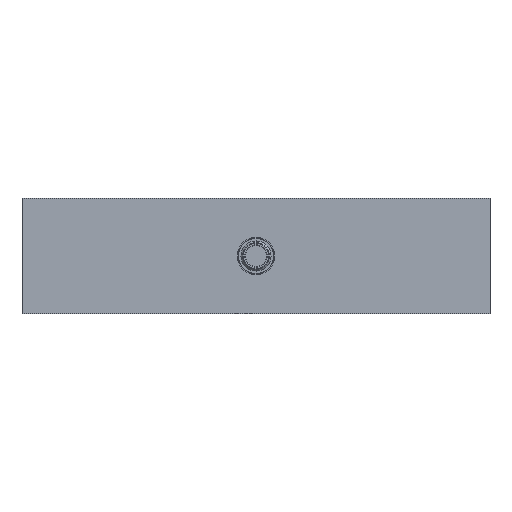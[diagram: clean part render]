
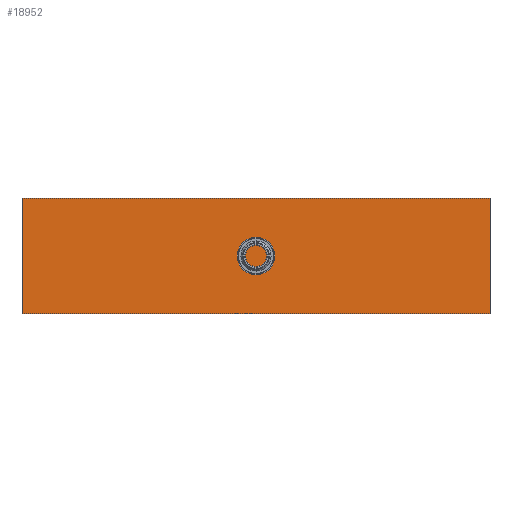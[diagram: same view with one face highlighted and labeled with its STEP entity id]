
A CAD part, front view. The second image highlights one B-rep face of the part: STEP entity #18952.
In plain terms, the highlighted planar face has unit normal (0, -1, 0).
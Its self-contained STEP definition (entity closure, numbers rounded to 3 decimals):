
#18873=DIRECTION('',(-1.,0.,0.));
#18874=VECTOR('',#18873,325.);
#18875=CARTESIAN_POINT('',(162.5,-20.,-40.));
#18876=LINE('',#18875,#18874);
#18877=DIRECTION('',(0.,0.,1.));
#18878=VECTOR('',#18877,80.);
#18879=CARTESIAN_POINT('',(-162.5,-20.,-40.));
#18880=LINE('',#18879,#18878);
#18881=DIRECTION('',(1.,0.,0.));
#18882=VECTOR('',#18881,325.);
#18883=CARTESIAN_POINT('',(-162.5,-20.,40.));
#18884=LINE('',#18883,#18882);
#18885=DIRECTION('',(0.,0.,-1.));
#18886=VECTOR('',#18885,80.);
#18887=CARTESIAN_POINT('',(162.5,-20.,40.));
#18888=LINE('',#18887,#18886);
#18921=CARTESIAN_POINT('',(162.5,-20.,-40.));
#18922=CARTESIAN_POINT('',(-162.5,-20.,-40.));
#18923=VERTEX_POINT('',#18921);
#18924=VERTEX_POINT('',#18922);
#18925=CARTESIAN_POINT('',(-162.5,-20.,40.));
#18926=VERTEX_POINT('',#18925);
#18927=CARTESIAN_POINT('',(162.5,-20.,40.));
#18928=VERTEX_POINT('',#18927);
#18937=CARTESIAN_POINT('',(0.,-20.,0.));
#18938=DIRECTION('',(0.,1.,0.));
#18939=DIRECTION('',(1.,0.,0.));
#18940=AXIS2_PLACEMENT_3D('',#18937,#18938,#18939);
#18941=PLANE('',#18940);
#18943=ORIENTED_EDGE('',*,*,#18942,.T.);
#18945=ORIENTED_EDGE('',*,*,#18944,.T.);
#18947=ORIENTED_EDGE('',*,*,#18946,.T.);
#18949=ORIENTED_EDGE('',*,*,#18948,.T.);
#18950=EDGE_LOOP('',(#18943,#18945,#18947,#18949));
#18951=FACE_OUTER_BOUND('',#18950,.F.);
#18952=ADVANCED_FACE('',(#18951),#18941,.F.);
#18942=EDGE_CURVE('',#18923,#18924,#18876,.T.);
#18944=EDGE_CURVE('',#18924,#18926,#18880,.T.);
#18946=EDGE_CURVE('',#18926,#18928,#18884,.T.);
#18948=EDGE_CURVE('',#18928,#18923,#18888,.T.);
